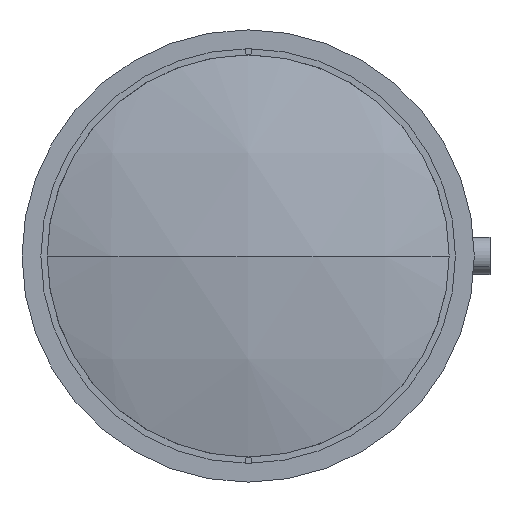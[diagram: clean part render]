
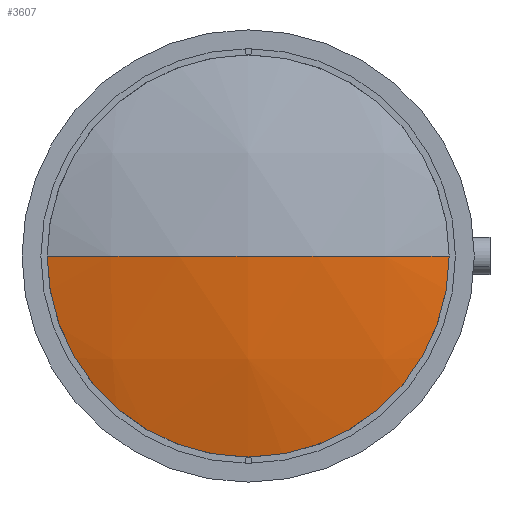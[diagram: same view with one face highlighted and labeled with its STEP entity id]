
A CAD part, left-side view. The second image highlights one B-rep face of the part: STEP entity #3607.
In plain terms, the highlighted spherical face has radius 113.68 mm.
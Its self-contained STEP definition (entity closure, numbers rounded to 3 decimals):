
#128 = AXIS2_PLACEMENT_3D ( 'NONE', #1430, #1473, #7062 ) ;
#298 = VERTEX_POINT ( 'NONE', #1704 ) ;
#747 = VERTEX_POINT ( 'NONE', #1742 ) ;
#963 = ORIENTED_EDGE ( 'NONE', *, *, #5161, .T. ) ;
#1383 = DIRECTION ( 'NONE',  ( 0., 0., -1. ) ) ;
#1430 = CARTESIAN_POINT ( 'NONE',  ( 113.68, 0., 0. ) ) ;
#1473 = DIRECTION ( 'NONE',  ( 0., 0., 1. ) ) ;
#1653 = CIRCLE ( 'NONE', #5479, 32.5 ) ;
#1704 = CARTESIAN_POINT ( 'NONE',  ( 4.745, 32.5, 0. ) ) ;
#1742 = CARTESIAN_POINT ( 'NONE',  ( 0., 0., 0. ) ) ;
#2028 = DIRECTION ( 'NONE',  ( 0., 0., -1. ) ) ;
#2320 = CIRCLE ( 'NONE', #128, 113.68 ) ;
#2459 = EDGE_CURVE ( 'NONE', #5184, #747, #3501, .T. ) ;
#2765 = CARTESIAN_POINT ( 'NONE',  ( 113.68, 0., 0. ) ) ;
#3055 = DIRECTION ( 'NONE',  ( -1., 0., 0. ) ) ;
#3191 = CARTESIAN_POINT ( 'NONE',  ( 4.745, 0., 0. ) ) ;
#3415 = ORIENTED_EDGE ( 'NONE', *, *, #3699, .F. ) ;
#3501 = CIRCLE ( 'NONE', #8678, 113.68 ) ;
#3607 = ADVANCED_FACE ( 'NONE', ( #6972 ), #4888, .T. ) ;
#3699 = EDGE_CURVE ( 'NONE', #298, #747, #2320, .T. ) ;
#4887 = DIRECTION ( 'NONE',  ( 0., 1., 0. ) ) ;
#4888 = SPHERICAL_SURFACE ( 'NONE', #8239, 113.68 ) ;
#5161 = EDGE_CURVE ( 'NONE', #298, #5184, #1653, .T. ) ;
#5184 = VERTEX_POINT ( 'NONE', #9121 ) ;
#5320 = DIRECTION ( 'NONE',  ( 0., 0., 1. ) ) ;
#5479 = AXIS2_PLACEMENT_3D ( 'NONE', #3191, #3055, #5320 ) ;
#5536 = CARTESIAN_POINT ( 'NONE',  ( 113.68, 0., 0. ) ) ;
#6072 = ORIENTED_EDGE ( 'NONE', *, *, #2459, .T. ) ;
#6535 = EDGE_LOOP ( 'NONE', ( #963, #6072, #3415 ) ) ;
#6972 = FACE_OUTER_BOUND ( 'NONE', #6535, .T. ) ;
#7062 = DIRECTION ( 'NONE',  ( 1., 0., 0. ) ) ;
#7757 = DIRECTION ( 'NONE',  ( 0., 1., 0. ) ) ;
#8239 = AXIS2_PLACEMENT_3D ( 'NONE', #2765, #1383, #7757 ) ;
#8678 = AXIS2_PLACEMENT_3D ( 'NONE', #5536, #2028, #4887 ) ;
#9121 = CARTESIAN_POINT ( 'NONE',  ( 4.745, -32.5, 0. ) ) ;
